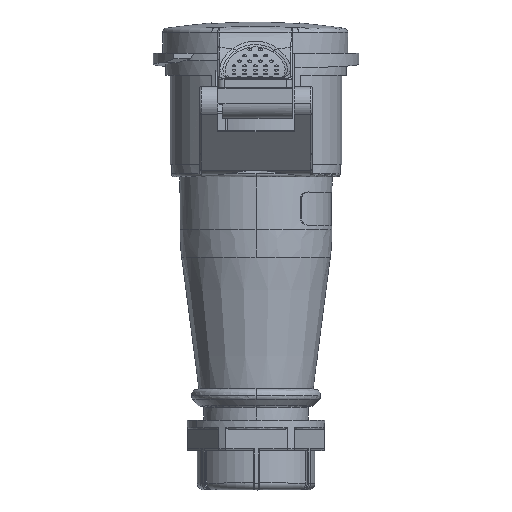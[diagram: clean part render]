
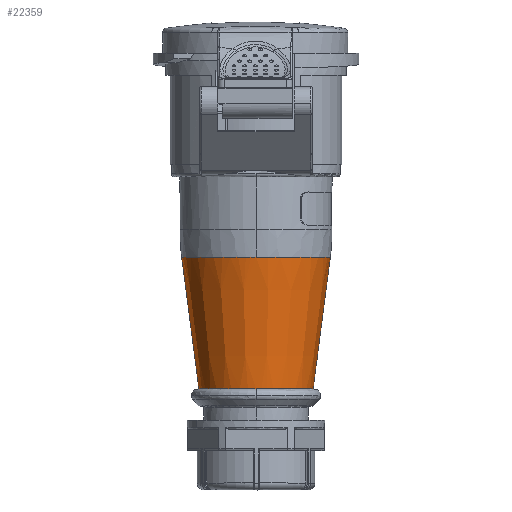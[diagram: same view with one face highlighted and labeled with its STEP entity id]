
A CAD part, top view. The second image highlights one B-rep face of the part: STEP entity #22359.
In plain terms, the highlighted conical face has half-angle 7.419 degrees and reference radius 184458 mm.
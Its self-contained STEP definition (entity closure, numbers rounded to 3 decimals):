
#554 = EDGE_CURVE ( 'NONE', #20638, #20201, #19653, .T. ) ;
#704 = CARTESIAN_POINT ( 'NONE',  ( -136.586, -53.109, 13.13 ) ) ;
#969 = AXIS2_PLACEMENT_3D ( 'NONE', #3840, #2416, #2185 ) ;
#1319 = LINE ( 'NONE', #17171, #6677 ) ;
#1346 = CARTESIAN_POINT ( 'NONE',  ( -116.503, -53.109, -4.487 ) ) ;
#1375 = CARTESIAN_POINT ( 'NONE',  ( -114.212, -35.514, -5.705 ) ) ;
#1484 = ORIENTED_EDGE ( 'NONE', *, *, #14635, .F. ) ;
#1801 = CARTESIAN_POINT ( 'NONE',  ( -135.353, -53.109, 13.13 ) ) ;
#1804 = EDGE_CURVE ( 'NONE', #15042, #20638, #8625, .T. ) ;
#1936 = VECTOR ( 'NONE', #6019, 1000. ) ;
#2185 = DIRECTION ( 'NONE',  ( -1., 0., 0. ) ) ;
#2299 = CARTESIAN_POINT ( 'NONE',  ( -113.222, -27.913, -5.694 ) ) ;
#2315 = CARTESIAN_POINT ( 'NONE',  ( -157.484, -27.912, -5.694 ) ) ;
#2331 = ORIENTED_EDGE ( 'NONE', *, *, #11312, .T. ) ;
#2340 =( BOUNDED_CURVE ( )  B_SPLINE_CURVE ( 3, ( #15458, #2818, #6359, #9772 ),
 .UNSPECIFIED., .F., .F. ) 
 B_SPLINE_CURVE_WITH_KNOTS ( ( 4, 4 ),
 ( 0.5, 1. ),
 .UNSPECIFIED. ) 
 CURVE ( )  GEOMETRIC_REPRESENTATION_ITEM ( )  RATIONAL_B_SPLINE_CURVE ( ( 0.5, 0.5, 0.667, 1. ) ) 
 REPRESENTATION_ITEM ( '' )  );
#2352 = CARTESIAN_POINT ( 'NONE',  ( -154.203, -53.109, -4.486 ) ) ;
#2384 = ORIENTED_EDGE ( 'NONE', *, *, #554, .F. ) ;
#2416 = DIRECTION ( 'NONE',  ( 0., 1., 0. ) ) ;
#2813 = EDGE_LOOP ( 'NONE', ( #1484, #23367, #2331, #16152, #10114, #9820, #16004, #2384, #16865, #10627 ) ) ;
#2818 = CARTESIAN_POINT ( 'NONE',  ( -159.867, -9.609, 10.623 ) ) ;
#3268 = VERTEX_POINT ( 'NONE', #8662 ) ;
#3840 = CARTESIAN_POINT ( 'NONE',  ( -135.353, 1416435.928, -5.72 ) ) ;
#4367 = CARTESIAN_POINT ( 'NONE',  ( -140.24, -53.109, 12.527 ) ) ;
#4601 = CARTESIAN_POINT ( 'NONE',  ( 184322.174, 1416435.928, -5.72 ) ) ;
#5646 =( BOUNDED_CURVE ( )  B_SPLINE_CURVE ( 3, ( #7505, #10695, #12700, #10927 ),
 .UNSPECIFIED., .F., .T. ) 
 B_SPLINE_CURVE_WITH_KNOTS ( ( 4, 4 ),
 ( 0., 0.5 ),
 .UNSPECIFIED. ) 
 CURVE ( )  GEOMETRIC_REPRESENTATION_ITEM ( )  RATIONAL_B_SPLINE_CURVE ( ( 1., 0.667, 0.5, 0.5 ) ) 
 REPRESENTATION_ITEM ( '' )  );
#6019 = DIRECTION ( 'NONE',  ( -0.129, 0.992, 0. ) ) ;
#6161 = CARTESIAN_POINT ( 'NONE',  ( 184322.174, 1416435.928, -5.72 ) ) ;
#6247 = CARTESIAN_POINT ( 'NONE',  ( -146.851, -53.109, 9.268 ) ) ;
#6359 = CARTESIAN_POINT ( 'NONE',  ( -147.61, -9.609, 18.794 ) ) ;
#6647 = VECTOR ( 'NONE', #10144, 1000. ) ;
#6677 = VECTOR ( 'NONE', #15399, 1000. ) ;
#6986 = CARTESIAN_POINT ( 'NONE',  ( -184592.879, 1416435.928, -5.72 ) ) ;
#7007 = CARTESIAN_POINT ( 'NONE',  ( -125.808, -53.109, 10.71 ) ) ;
#7269 = CARTESIAN_POINT ( 'NONE',  ( -110.839, -9.609, -5.72 ) ) ;
#7505 = CARTESIAN_POINT ( 'NONE',  ( -135.353, -9.609, 18.794 ) ) ;
#7689 = EDGE_CURVE ( 'NONE', #15042, #8733, #17344, .T. ) ;
#8012 = CARTESIAN_POINT ( 'NONE',  ( -150.341, -53.109, 5.778 ) ) ;
#8256 = CARTESIAN_POINT ( 'NONE',  ( -137.82, -53.109, 13.009 ) ) ;
#8625 = LINE ( 'NONE', #6986, #22291 ) ;
#8662 = CARTESIAN_POINT ( 'NONE',  ( -135.353, -9.609, 18.794 ) ) ;
#8733 = VERTEX_POINT ( 'NONE', #19780 ) ;
#9184 = LINE ( 'NONE', #18776, #19101 ) ;
#9543 = CARTESIAN_POINT ( 'NONE',  ( -143.706, -53.109, 11.223 ) ) ;
#9667 = CARTESIAN_POINT ( 'NONE',  ( -147.809, -53.109, 8.482 ) ) ;
#9772 = CARTESIAN_POINT ( 'NONE',  ( -135.353, -9.609, 18.794 ) ) ;
#9820 = ORIENTED_EDGE ( 'NONE', *, *, #13488, .F. ) ;
#10114 = ORIENTED_EDGE ( 'NONE', *, *, #18323, .F. ) ;
#10144 = DIRECTION ( 'NONE',  ( 0.129, 0.992, 0. ) ) ;
#10426 = CARTESIAN_POINT ( 'NONE',  ( -117.107, -53.109, -0.867 ) ) ;
#10627 = ORIENTED_EDGE ( 'NONE', *, *, #7689, .T. ) ;
#10695 = CARTESIAN_POINT ( 'NONE',  ( -123.096, -9.609, 18.794 ) ) ;
#10717 = VERTEX_POINT ( 'NONE', #1375 ) ;
#10927 = CARTESIAN_POINT ( 'NONE',  ( -110.839, -9.609, -5.72 ) ) ;
#11312 = EDGE_CURVE ( 'NONE', #10717, #14443, #22767, .T. ) ;
#11315 = CARTESIAN_POINT ( 'NONE',  ( -154.203, -53.109, -5.72 ) ) ;
#11985 = CARTESIAN_POINT ( 'NONE',  ( -184592.879, 1416435.928, -5.72 ) ) ;
#12011 = VECTOR ( 'NONE', #20826, 1000. ) ;
#12700 = CARTESIAN_POINT ( 'NONE',  ( -110.839, -9.609, 10.623 ) ) ;
#13073 = CARTESIAN_POINT ( 'NONE',  ( -154.203, -53.109, -5.72 ) ) ;
#13215 = CARTESIAN_POINT ( 'NONE',  ( -151.711, -53.109, 3.727 ) ) ;
#13326 = CARTESIAN_POINT ( 'NONE',  ( -153.6, -53.109, -0.832 ) ) ;
#13488 = EDGE_CURVE ( 'NONE', #21584, #3268, #2340, .T. ) ;
#13978 = CARTESIAN_POINT ( 'NONE',  ( -116.503, -53.109, -5.72 ) ) ;
#14443 = VERTEX_POINT ( 'NONE', #2299 ) ;
#14635 = EDGE_CURVE ( 'NONE', #14760, #8733, #19876, .T. ) ;
#14760 = VERTEX_POINT ( 'NONE', #15238 ) ;
#15042 = VERTEX_POINT ( 'NONE', #13073 ) ;
#15238 = CARTESIAN_POINT ( 'NONE',  ( -116.503, -53.109, -5.72 ) ) ;
#15399 = DIRECTION ( 'NONE',  ( 0.129, 0.992, 0. ) ) ;
#15458 = CARTESIAN_POINT ( 'NONE',  ( -159.867, -9.609, -5.72 ) ) ;
#15648 = CARTESIAN_POINT ( 'NONE',  ( -117.471, -53.109, 0.319 ) ) ;
#15849 = DIRECTION ( 'NONE',  ( -0.129, 0.992, 0. ) ) ;
#15870 = CARTESIAN_POINT ( 'NONE',  ( -119.019, -53.109, 3.748 ) ) ;
#15977 = CARTESIAN_POINT ( 'NONE',  ( -121.151, -53.109, 6.737 ) ) ;
#16004 = ORIENTED_EDGE ( 'NONE', *, *, #19844, .F. ) ;
#16020 = EDGE_CURVE ( 'NONE', #14760, #10717, #22582, .T. ) ;
#16152 = ORIENTED_EDGE ( 'NONE', *, *, #18762, .T. ) ;
#16425 = VERTEX_POINT ( 'NONE', #7269 ) ;
#16865 = ORIENTED_EDGE ( 'NONE', *, *, #1804, .F. ) ;
#16894 = CARTESIAN_POINT ( 'NONE',  ( -135.353, -53.109, 13.13 ) ) ;
#17171 = CARTESIAN_POINT ( 'NONE',  ( 184322.174, 1416435.928, -5.72 ) ) ;
#17344 = B_SPLINE_CURVE_WITH_KNOTS ( 'NONE', 3,
 ( #11315, #2352, #22189, #13326, #20546, #18787, #13215, #8012, #22306, #9667, #6247, #22423, #9543, #18539, #4367, #8256, #704, #16894 ),
 .UNSPECIFIED., .F., .F.,
 ( 4, 2, 2, 2, 2, 2, 2, 2, 4 ),
 ( 0.5, 0.562, 0.625, 0.687, 0.75, 0.812, 0.875, 0.937, 1. ),
 .UNSPECIFIED. ) ;
#17651 = CARTESIAN_POINT ( 'NONE',  ( -123.768, -53.109, 9.354 ) ) ;
#18323 = EDGE_CURVE ( 'NONE', #3268, #16425, #5646, .T. ) ;
#18531 = DIRECTION ( 'NONE',  ( -0.129, 0.992, 0. ) ) ;
#18539 = CARTESIAN_POINT ( 'NONE',  ( -141.427, -53.109, 12.167 ) ) ;
#18762 = EDGE_CURVE ( 'NONE', #14443, #16425, #1319, .T. ) ;
#18776 = CARTESIAN_POINT ( 'NONE',  ( -184592.879, 1416435.928, -5.72 ) ) ;
#18787 = CARTESIAN_POINT ( 'NONE',  ( -152.296, -53.109, 2.633 ) ) ;
#19076 = CONICAL_SURFACE ( 'NONE', #969, 184457.527, 0.129 ) ;
#19101 = VECTOR ( 'NONE', #18531, 1000. ) ;
#19313 = CARTESIAN_POINT ( 'NONE',  ( -132.88, -53.109, 13.13 ) ) ;
#19653 = LINE ( 'NONE', #11985, #1936 ) ;
#19780 = CARTESIAN_POINT ( 'NONE',  ( -135.353, -53.109, 13.13 ) ) ;
#19844 = EDGE_CURVE ( 'NONE', #20201, #21584, #9184, .T. ) ;
#19876 = B_SPLINE_CURVE_WITH_KNOTS ( 'NONE', 3,
 ( #13978, #1346, #21078, #10426, #15648, #22830, #15870, #23059, #15977, #17651, #7007, #21289, #19313, #1801 ),
 .UNSPECIFIED., .F., .F.,
 ( 4, 2, 2, 2, 2, 2, 4 ),
 ( 0.5, 0.563, 0.625, 0.688, 0.75, 0.875, 1. ),
 .UNSPECIFIED. ) ;
#20201 = VERTEX_POINT ( 'NONE', #2315 ) ;
#20546 = CARTESIAN_POINT ( 'NONE',  ( -153.24, -53.109, 0.354 ) ) ;
#20638 = VERTEX_POINT ( 'NONE', #23047 ) ;
#20826 = DIRECTION ( 'NONE',  ( 0.129, 0.992, 0. ) ) ;
#21078 = CARTESIAN_POINT ( 'NONE',  ( -116.623, -53.109, -3.27 ) ) ;
#21176 = CARTESIAN_POINT ( 'NONE',  ( -159.867, -9.609, -5.72 ) ) ;
#21289 = CARTESIAN_POINT ( 'NONE',  ( -130.477, -53.109, 12.646 ) ) ;
#21584 = VERTEX_POINT ( 'NONE', #21176 ) ;
#22137 = FACE_OUTER_BOUND ( 'NONE', #2813, .T. ) ;
#22189 = CARTESIAN_POINT ( 'NONE',  ( -154.081, -53.109, -3.253 ) ) ;
#22291 = VECTOR ( 'NONE', #15849, 1000. ) ;
#22306 = CARTESIAN_POINT ( 'NONE',  ( -149.554, -53.109, 6.737 ) ) ;
#22359 = ADVANCED_FACE ( 'NONE', ( #22137 ), #19076, .T. ) ;
#22423 = CARTESIAN_POINT ( 'NONE',  ( -144.799, -53.109, 10.639 ) ) ;
#22582 = LINE ( 'NONE', #6161, #12011 ) ;
#22767 = LINE ( 'NONE', #4601, #6647 ) ;
#22830 = CARTESIAN_POINT ( 'NONE',  ( -118.438, -53.109, 2.654 ) ) ;
#23047 = CARTESIAN_POINT ( 'NONE',  ( -156.494, -35.512, -5.706 ) ) ;
#23059 = CARTESIAN_POINT ( 'NONE',  ( -120.375, -53.109, 5.789 ) ) ;
#23367 = ORIENTED_EDGE ( 'NONE', *, *, #16020, .T. ) ;
